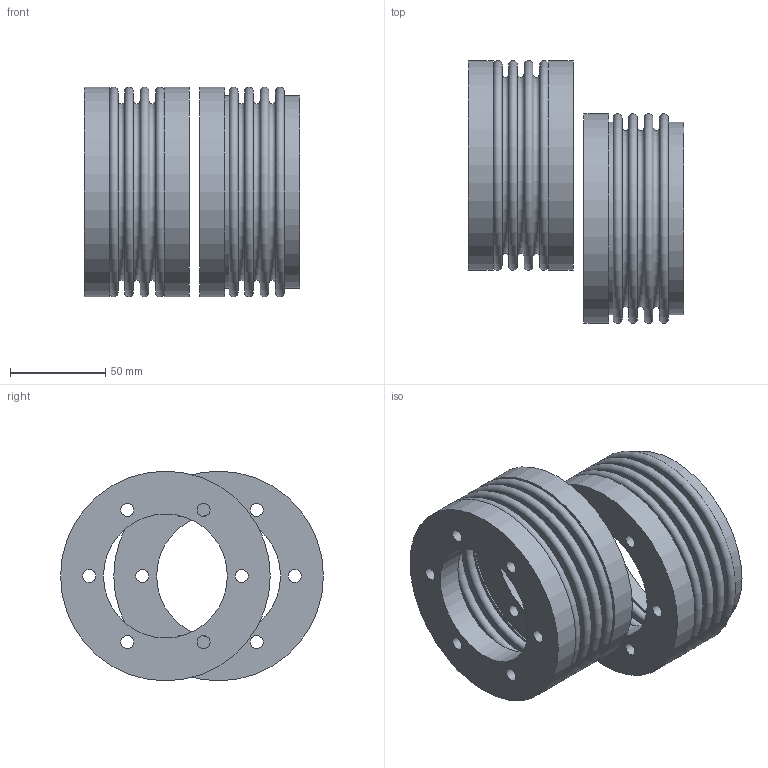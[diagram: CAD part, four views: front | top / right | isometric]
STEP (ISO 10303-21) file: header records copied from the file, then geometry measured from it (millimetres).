
FILE_DESCRIPTION( ( 'Unknown' ), '1' );
FILE_NAME( 'C:/Dokumente und Einstellungen/Sven/Desktop/homepage/cad - homepage/KB7/KB7-300-55.stp', 'Unknown', ( 'Unknown' ), ( 'Unknown' ), 'XStep 1.0', 'Unknown', ' ' );
FILE_SCHEMA( ( 'automotive_design' ) );
Length unit declared in the file: millimetre
Products named in the file (3): Assem1; FN300_Standard; BK300_Standard
Bounding box: 112.89 x 137.9 x 110 mm (x, y, z)
Volume: 268968.5 mm3; surface area: 183835.9 mm2
Topology: 5 solids, 5 shells, 102 faces, 180 edges, 120 vertices
Faces by surface type: plane 42, cylinder 32, torus 28
Full cylindrical faces by diameter (mm): 6.8 x18, 65 x3, 99.8 x4, 101 x4, 110 x3
Entity records: 1154 total; most frequent: DIRECTION 204, CARTESIAN_POINT 154, EDGE_LOOP 104, ORIENTED_EDGE 104, AXIS2_PLACEMENT_3D 102, FACE_OUTER_BOUND 72, EDGE_CURVE 52, VERTEX_POINT 52
